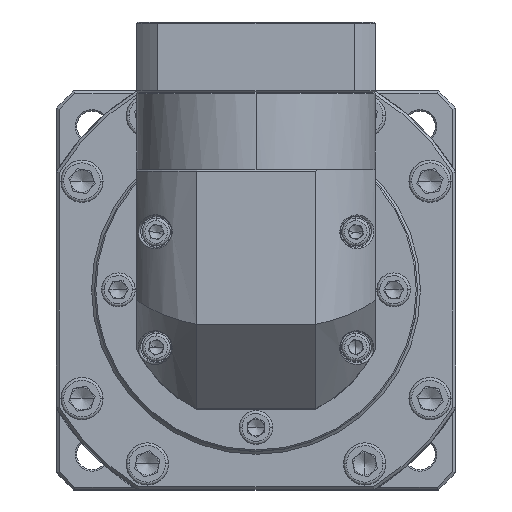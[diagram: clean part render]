
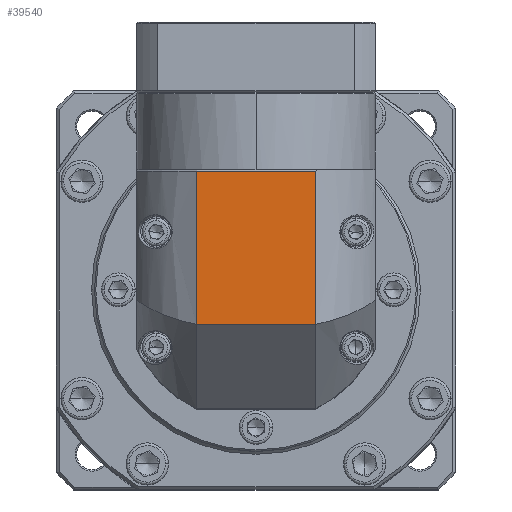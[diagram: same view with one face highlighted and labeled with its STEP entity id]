
A CAD part, top view. The second image highlights one B-rep face of the part: STEP entity #39540.
In plain terms, the highlighted planar face has unit normal (0, 0, 1).
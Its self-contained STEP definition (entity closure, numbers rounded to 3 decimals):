
#1853 = ORIENTED_EDGE ( 'NONE', *, *, #146602, .T. ) ;
#3159 = EDGE_LOOP ( 'NONE', ( #58754, #78286, #32466, #1853 ) ) ;
#3569 = LINE ( 'NONE', #36417, #11253 ) ;
#11253 = VECTOR ( 'NONE', #155349, 1000. ) ;
#13036 = EDGE_CURVE ( 'NONE', #64624, #37110, #121574, .T. ) ;
#19357 = FACE_OUTER_BOUND ( 'NONE', #3159, .T. ) ;
#27958 = CARTESIAN_POINT ( 'NONE',  ( -159.064, 117.203, 73.098 ) ) ;
#29010 = DIRECTION ( 'NONE',  ( 0., 1., 0. ) ) ;
#31565 = VECTOR ( 'NONE', #73930, 1000. ) ;
#32466 = ORIENTED_EDGE ( 'NONE', *, *, #13036, .F. ) ;
#36417 = CARTESIAN_POINT ( 'NONE',  ( -159.064, 159.203, 73.098 ) ) ;
#37110 = VERTEX_POINT ( 'NONE', #63558 ) ;
#39540 = ADVANCED_FACE ( 'NONE', ( #19357 ), #65130, .T. ) ;
#40403 = VERTEX_POINT ( 'NONE', #62233 ) ;
#42127 = EDGE_CURVE ( 'NONE', #40403, #58973, #114079, .T. ) ;
#55930 = LINE ( 'NONE', #135508, #31565 ) ;
#58754 = ORIENTED_EDGE ( 'NONE', *, *, #42127, .F. ) ;
#58973 = VERTEX_POINT ( 'NONE', #89130 ) ;
#62233 = CARTESIAN_POINT ( 'NONE',  ( -180.277, 104.703, 73.098 ) ) ;
#63558 = CARTESIAN_POINT ( 'NONE',  ( -137.851, 104.703, 73.098 ) ) ;
#64624 = VERTEX_POINT ( 'NONE', #76862 ) ;
#65130 = PLANE ( 'NONE',  #86801 ) ;
#73710 = DIRECTION ( 'NONE',  ( 0., -1., 0. ) ) ;
#73930 = DIRECTION ( 'NONE',  ( -1., 0., 0. ) ) ;
#76256 = DIRECTION ( 'NONE',  ( 0., 0., 1. ) ) ;
#76862 = CARTESIAN_POINT ( 'NONE',  ( -137.851, 159.203, 73.098 ) ) ;
#78286 = ORIENTED_EDGE ( 'NONE', *, *, #106821, .F. ) ;
#86801 = AXIS2_PLACEMENT_3D ( 'NONE', #27958, #76256, #149456 ) ;
#89130 = CARTESIAN_POINT ( 'NONE',  ( -180.277, 159.203, 73.098 ) ) ;
#89487 = VECTOR ( 'NONE', #73710, 1000. ) ;
#106821 = EDGE_CURVE ( 'NONE', #37110, #40403, #55930, .T. ) ;
#114079 = LINE ( 'NONE', #151202, #130924 ) ;
#121574 = LINE ( 'NONE', #123712, #89487 ) ;
#123712 = CARTESIAN_POINT ( 'NONE',  ( -137.851, 59.203, 73.098 ) ) ;
#130924 = VECTOR ( 'NONE', #29010, 1000. ) ;
#135508 = CARTESIAN_POINT ( 'NONE',  ( -159.064, 104.703, 73.098 ) ) ;
#146602 = EDGE_CURVE ( 'NONE', #64624, #58973, #3569, .T. ) ;
#149456 = DIRECTION ( 'NONE',  ( 0., 1., 0. ) ) ;
#151202 = CARTESIAN_POINT ( 'NONE',  ( -180.277, 59.203, 73.098 ) ) ;
#155349 = DIRECTION ( 'NONE',  ( -1., 0., 0. ) ) ;
